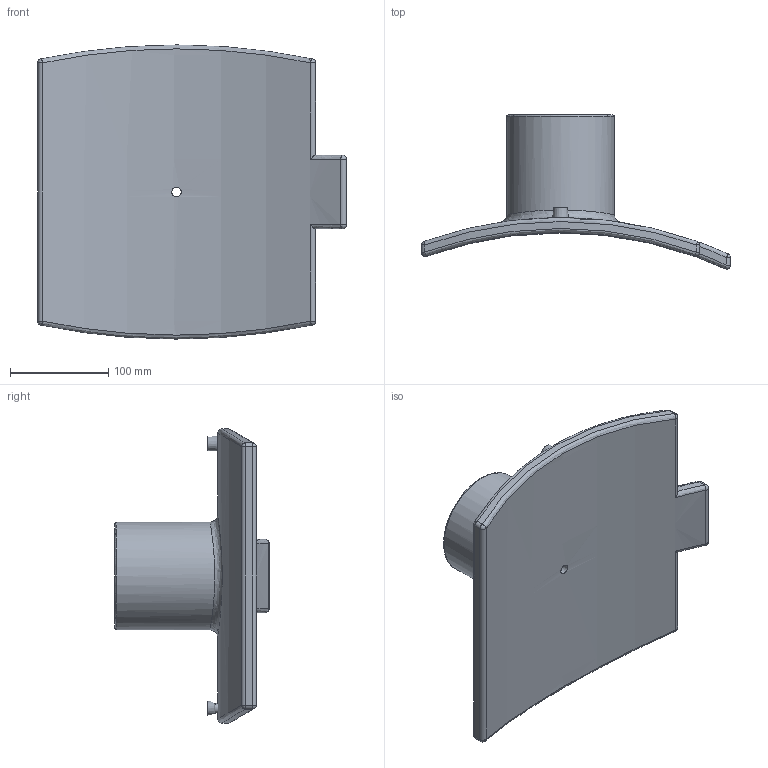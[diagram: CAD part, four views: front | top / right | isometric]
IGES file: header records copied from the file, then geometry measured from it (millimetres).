
Global section: file name: 495804710110T.ipt; native system: Autodesk Inventor 2015; preprocessor: unknown; author: KIM; date: 20171106.094344; units: millimetre
Bounding box: 315 x 157.15 x 300 mm (x, y, z)
Volume: 1665950.5 mm3; surface area: 259920.2 mm2
Topology: 2 solids, 2 shells, 66 faces, 132 edges, 78 vertices
Faces by surface type: cylinder 22, plane 14, sphere 12, revolution 11, bspline 5, cone 2
Full cylindrical faces by diameter (mm): 4 x2, 16 x1, 110 x1
